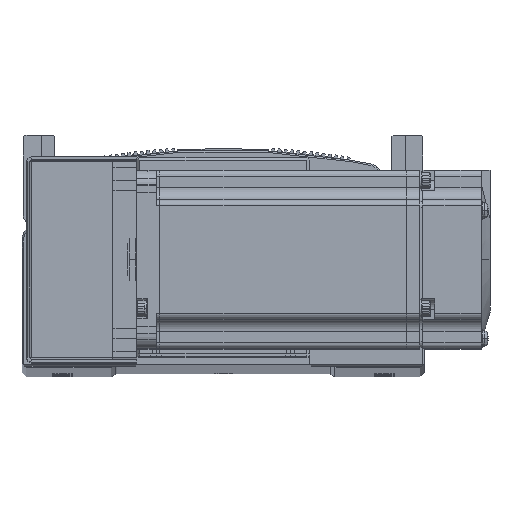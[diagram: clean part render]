
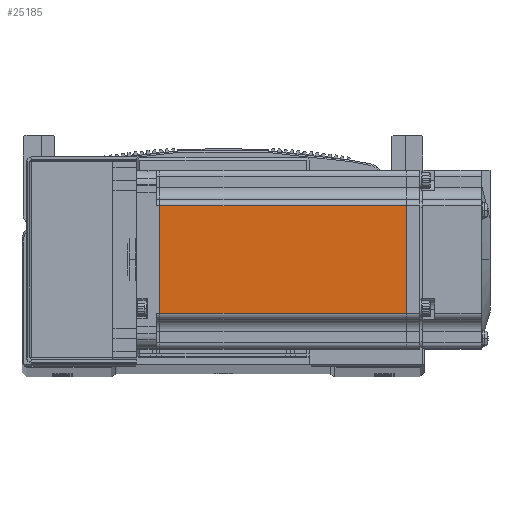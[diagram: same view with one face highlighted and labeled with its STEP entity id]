
A CAD part, top view. The second image highlights one B-rep face of the part: STEP entity #25185.
In plain terms, the highlighted planar face has unit normal (0, 0, 1) as drawn and (0, 0, -1) by its records, which use the part's own axes.
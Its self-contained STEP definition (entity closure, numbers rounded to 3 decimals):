
#3247 = EDGE_CURVE ( 'NONE', #58530, #58576, #87582, .T. ) ;
#3297 = EDGE_CURVE ( 'NONE', #58576, #58550, #30157, .T. ) ;
#3302 = EDGE_CURVE ( 'NONE', #58550, #58715, #30156, .T. ) ;
#3305 = EDGE_CURVE ( 'NONE', #58715, #58530, #86519, .T. ) ;
#9781 = AXIS2_PLACEMENT_3D ( 'NONE', #67938, #67924, #67912 ) ;
#16613 = FACE_OUTER_BOUND ( 'NONE', #58854, .T. ) ;
#25185 = ADVANCED_FACE ( 'NONE', ( #16613 ), #67943, .T. ) ;
#30156 = LINE ( 'NONE', #68020, #30159 ) ;
#30157 = LINE ( 'NONE', #68000, #30158 ) ;
#30158 = VECTOR ( 'NONE', #68019, 1000. ) ;
#30159 = VECTOR ( 'NONE', #68022, 1000. ) ;
#39342 = CARTESIAN_POINT ( 'NONE',  ( -90.45, 18., -30. ) ) ;
#39419 = CARTESIAN_POINT ( 'NONE',  ( -7.75, 18., -30. ) ) ;
#39450 = CARTESIAN_POINT ( 'NONE',  ( -90.45, -18., -30. ) ) ;
#39512 = CARTESIAN_POINT ( 'NONE',  ( -7.75, -18., -30. ) ) ;
#58530 = VERTEX_POINT ( 'NONE', #39450 ) ;
#58550 = VERTEX_POINT ( 'NONE', #39419 ) ;
#58576 = VERTEX_POINT ( 'NONE', #39342 ) ;
#58715 = VERTEX_POINT ( 'NONE', #39512 ) ;
#58854 = EDGE_LOOP ( 'NONE', ( #66972, #66947, #66937, #66939 ) ) ;
#66937 = ORIENTED_EDGE ( 'NONE', *, *, #3247, .T. ) ;
#66939 = ORIENTED_EDGE ( 'NONE', *, *, #3297, .T. ) ;
#66947 = ORIENTED_EDGE ( 'NONE', *, *, #3305, .T. ) ;
#66972 = ORIENTED_EDGE ( 'NONE', *, *, #3302, .T. ) ;
#67802 = CARTESIAN_POINT ( 'NONE',  ( -90.45, 25., -30. ) ) ;
#67804 = DIRECTION ( 'NONE',  ( 0., 1., 0. ) ) ;
#67912 = DIRECTION ( 'NONE',  ( -1., 0., 0. ) ) ;
#67924 = DIRECTION ( 'NONE',  ( 0., 0., -1. ) ) ;
#67938 = CARTESIAN_POINT ( 'NONE',  ( -6.5, 25., -30. ) ) ;
#67943 = PLANE ( 'NONE',  #9781 ) ;
#68000 = CARTESIAN_POINT ( 'NONE',  ( -6.5, 18., -30. ) ) ;
#68019 = DIRECTION ( 'NONE',  ( 1., 0., 0. ) ) ;
#68020 = CARTESIAN_POINT ( 'NONE',  ( -7.75, 25., -30. ) ) ;
#68022 = DIRECTION ( 'NONE',  ( 0., -1., 0. ) ) ;
#68058 = CARTESIAN_POINT ( 'NONE',  ( -6.5, -18., -30. ) ) ;
#68070 = DIRECTION ( 'NONE',  ( -1., 0., 0. ) ) ;
#86517 = VECTOR ( 'NONE', #68070, 1000. ) ;
#86519 = LINE ( 'NONE', #68058, #86517 ) ;
#87547 = VECTOR ( 'NONE', #67804, 1000. ) ;
#87582 = LINE ( 'NONE', #67802, #87547 ) ;
